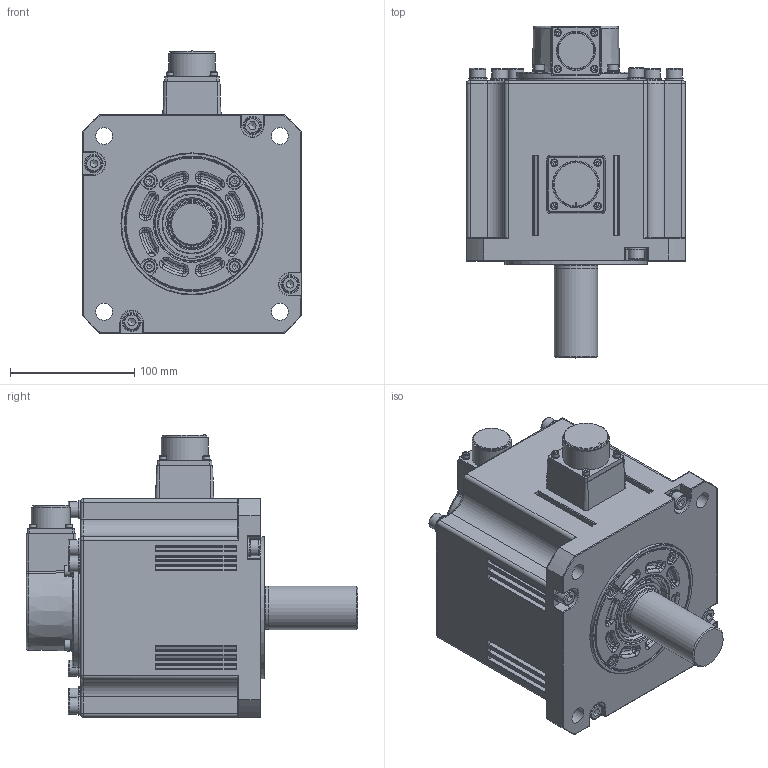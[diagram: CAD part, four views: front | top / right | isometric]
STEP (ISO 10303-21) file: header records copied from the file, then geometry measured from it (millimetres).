
FILE_DESCRIPTION((''),'2;1');
FILE_NAME('C:\Documents and Settings\11644\桌面\SME-M200B.stp','2016-07-15T19:56:23',('11644'),(''),'Autodesk Inventor 2008','Autodesk Inventor 2008','');
FILE_SCHEMA(('AUTOMOTIVE_DESIGN { 1 0 10303 214 1 1 1 1 }'));
Length unit declared in the file: millimetre
Products named in the file (2): SME-M200B; SME-M200B_57
Assembly tree (1 placements, depth 2):
  SME-M200B
    SME-M200B_57
Bounding box: 176 x 267 x 227.3 mm (x, y, z)
Volume: 4425080.7 mm3; surface area: 224042.7 mm2
Topology: 1 solids, 1 shells, 996 faces, 2327 edges, 1410 vertices
Faces by surface type: plane 397, cylinder 321, torus 144, cone 63, bspline 63, sphere 8
Full cylindrical faces by diameter (mm): 5.5 x8, 6 x8, 8.5 x8, 9 x8, 13 x11, 13.5 x4, 15 x11, 29.5 x1, 31.5 x1, 34.8 x1, 35 x1, 36 x1, 37.7 x1, 40 x1, 47.112 x2, 55.504 x1, 60 x1, 95.8 x1, 108 x1, 114.3 x1
Entity records: 30731 total; most frequent: CARTESIAN_POINT 7979, DIRECTION 4638, ORIENTED_EDGE 4154, EDGE_CURVE 2077, AXIS2_PLACEMENT_3D 1827, VERTEX_POINT 1371, EDGE_LOOP 1292, STYLED_ITEM 997
